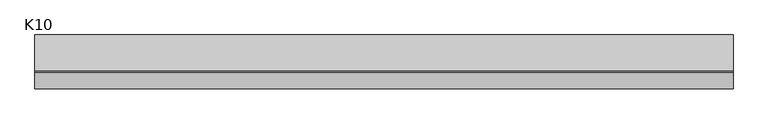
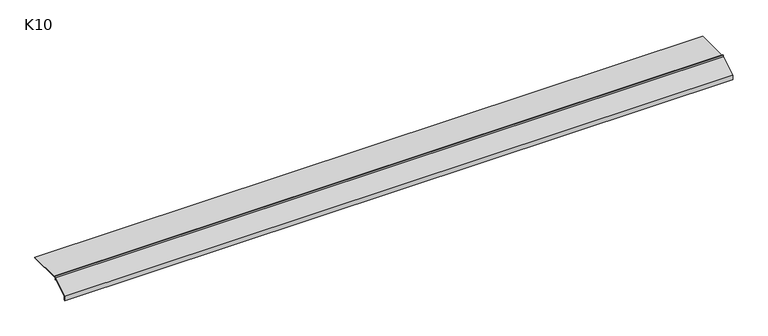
"""IFC4 building model written with IfcOpenShell, lengths in millimetres: proxy geometry, K10 Profil okapowy prosty bez rynny : K10."""

from ifc_helpers import new_model, si_unit, frame, origin, place, context, project, spatial, polyline, outline, extrude, source, transform, mapped, element, save


def k10_50ab023b(model_context):
    return source(origin(), model_context, "Body", "SweptSolid", [
        extrude(outline(polyline([(-1.25, -3.0), (-1.25, 0.0), (0.0, 0.0), (0.0, -3.0), (65.0, -3.0), (65.0, -4.25), (0.0, -4.25), (0.0, -7.25), (-1.25, -7.25), (-1.25, -4.4598861), (-30.0, -21.8057194), (-30.0, -29.17), (-31.25, -30.42), (-31.25, -21.1), (-1.25, -3.0)])), frame((0.0, 0.0, 0.0), z_axis=(1.0, 0.0, 0.0), x_axis=(0.0, 1.0, 0.0)), (0.0, 0.0, 1.0), 1245.6968661),
    ])


if __name__ == "__main__":
    model = new_model("IFC4")
    model_context = context("Model", 3, world=origin())
    ifc_project = project(units=[si_unit("LENGTHUNIT", "METRE", prefix="MILLI")], contexts=[model_context])
    site = spatial("IfcSite", under=ifc_project)
    building = spatial("IfcBuilding", under=site)
    placement = place(None, origin())
    k10_shape = k10_50ab023b(model_context)
    element("IfcBuildingElementProxy", 1, Name="K10 Profil okapowy prosty bez rynny : K10", ObjectType="K10 Profil okapowy prosty bez rynny : K10", at=placement, inside=building, context=model_context, shape_type="MappedRepresentation", body=[
        mapped(k10_shape, transform((0.0, 0.0, 0.0), x_axis=(1.0, 0.0, 0.0), y_axis=(0.0, 1.0, 0.0), z_axis=(0.0, 0.0, 1.0))),
    ])
    save(model, "model.ifc")
